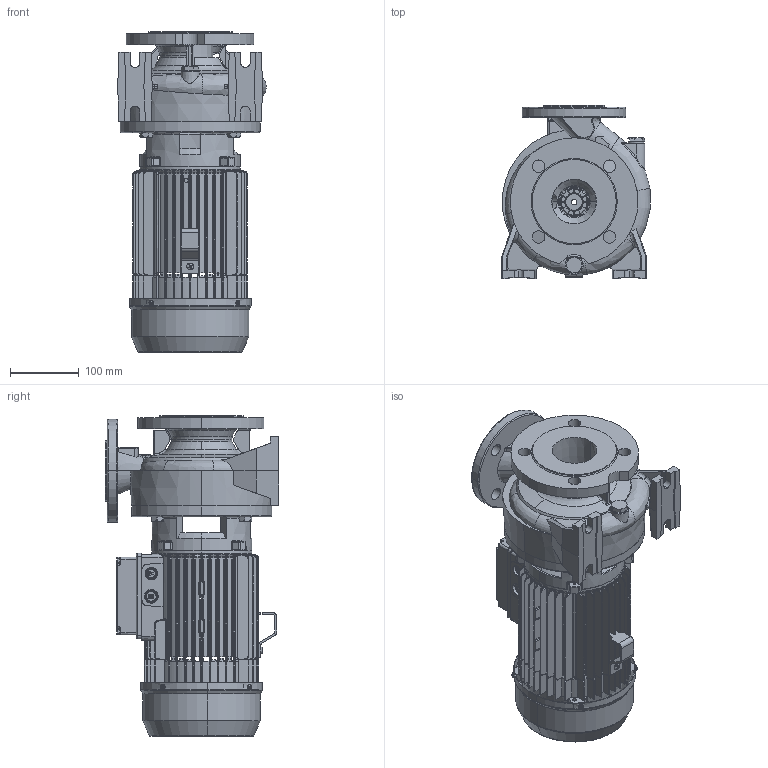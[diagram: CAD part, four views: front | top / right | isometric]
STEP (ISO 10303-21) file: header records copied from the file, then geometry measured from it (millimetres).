
FILE_DESCRIPTION (( 'STEP AP203' ), '1' );
FILE_NAME ('CN 40-125 A Special IE3.STEP', '2017-02-01T13:41:33', ( 'tecnico1' ), ( '' ), 'SwSTEP 2.0', 'SolidWorks 2016', '' );
FILE_SCHEMA (( 'CONFIG_CONTROL_DESIGN' ));
Products named in the file (1): CN 40-125 A Special IE3
Bounding box: 215.46 x 252 x 465 mm (x, y, z)
Surface area: 732188.6 mm2 (no closed solid volume)
Topology: 0 solids, 30 shells, 2567 faces, 8179 edges, 5447 vertices
Faces by surface type: plane 926, bspline 863, cylinder 451, cone 188, torus 129, sphere 10
Entity records: 147430 total; most frequent: CARTESIAN_POINT 84814, ORIENTED_EDGE 13476, DIRECTION 10658, EDGE_CURVE 8134, VERTEX_POINT 5447, AXIS2_PLACEMENT_3D 3697, VECTOR 3264, LINE 3264
